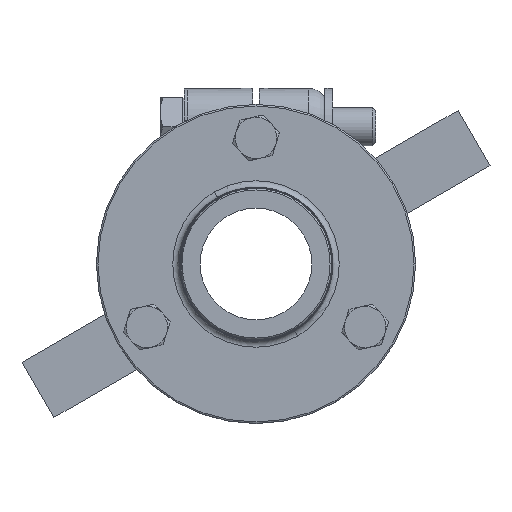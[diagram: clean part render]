
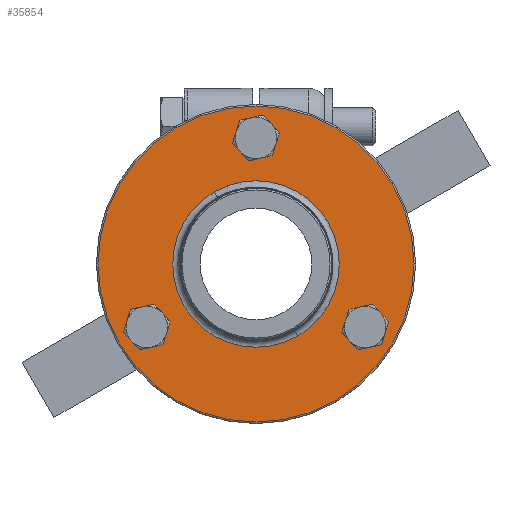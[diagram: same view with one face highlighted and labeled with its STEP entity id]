
A CAD part, front view. The second image highlights one B-rep face of the part: STEP entity #35854.
In plain terms, the highlighted planar face has unit normal (0, -1, 0).
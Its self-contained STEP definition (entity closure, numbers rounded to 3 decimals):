
#741 = EDGE_LOOP ( 'NONE', ( #27718, #27720 ) ) ;
#742 = EDGE_LOOP ( 'NONE', ( #27726, #27728 ) ) ;
#744 = EDGE_LOOP ( 'NONE', ( #27714, #27716 ) ) ;
#745 = EDGE_LOOP ( 'NONE', ( #27722, #27724 ) ) ;
#746 = EDGE_LOOP ( 'NONE', ( #27730, #27732 ) ) ;
#3844 = EDGE_CURVE ( 'NONE', #28435, #28436, #7084, .T. ) ;
#3848 = EDGE_CURVE ( 'NONE', #28439, #28440, #7090, .T. ) ;
#3852 = EDGE_CURVE ( 'NONE', #28443, #28444, #7096, .T. ) ;
#3854 = EDGE_CURVE ( 'NONE', #28441, #28442, #7097, .T. ) ;
#3953 = EDGE_CURVE ( 'NONE', #28514, #28512, #7177, .T. ) ;
#6642 = AXIS2_PLACEMENT_3D ( 'NONE', #11888, #11889, #11890 ) ;
#6644 = AXIS2_PLACEMENT_3D ( 'NONE', #11898, #11899, #11900 ) ;
#6646 = AXIS2_PLACEMENT_3D ( 'NONE', #11908, #11909, #11910 ) ;
#6647 = AXIS2_PLACEMENT_3D ( 'NONE', #11912, #11913, #11914 ) ;
#6663 = AXIS2_PLACEMENT_3D ( 'NONE', #8579, #8580, #8581 ) ;
#7084 = CIRCLE ( 'NONE', #6642, 5.25 ) ;
#7090 = CIRCLE ( 'NONE', #6644, 5.25 ) ;
#7096 = CIRCLE ( 'NONE', #6646, 5.25 ) ;
#7097 = CIRCLE ( 'NONE', #6647, 49.5 ) ;
#7177 = CIRCLE ( 'NONE', #6663, 26.074 ) ;
#8579 = CARTESIAN_POINT ( 'NONE',  ( 0., 9., 0. ) ) ;
#8580 = DIRECTION ( 'NONE',  ( 0., 1., 0. ) ) ;
#8581 = DIRECTION ( 'NONE',  ( 0.5, 0., -0.866 ) ) ;
#9077 = AXIS2_PLACEMENT_3D ( 'NONE', #30120, #30121, #30122 ) ;
#9086 = AXIS2_PLACEMENT_3D ( 'NONE', #30191, #30192, #30193 ) ;
#9087 = AXIS2_PLACEMENT_3D ( 'NONE', #30194, #30195, #30196 ) ;
#9088 = AXIS2_PLACEMENT_3D ( 'NONE', #30197, #30198, #30199 ) ;
#9089 = AXIS2_PLACEMENT_3D ( 'NONE', #30202, #30203, #30204 ) ;
#10191 = CIRCLE ( 'NONE', #9077, 26.074 ) ;
#10200 = CIRCLE ( 'NONE', #9086, 49.5 ) ;
#10201 = CIRCLE ( 'NONE', #9087, 5.25 ) ;
#10202 = CIRCLE ( 'NONE', #9088, 5.25 ) ;
#10203 = CIRCLE ( 'NONE', #9089, 5.25 ) ;
#11888 = CARTESIAN_POINT ( 'NONE',  ( 0., 9., 39.5 ) ) ;
#11889 = DIRECTION ( 'NONE',  ( 0., -1., 0. ) ) ;
#11890 = DIRECTION ( 'NONE',  ( 1., 0., 0. ) ) ;
#11898 = CARTESIAN_POINT ( 'NONE',  ( 34.208, 9., -19.75 ) ) ;
#11899 = DIRECTION ( 'NONE',  ( 0., -1., 0. ) ) ;
#11900 = DIRECTION ( 'NONE',  ( -0.5, 0., -0.866 ) ) ;
#11908 = CARTESIAN_POINT ( 'NONE',  ( -34.208, 9., -19.75 ) ) ;
#11909 = DIRECTION ( 'NONE',  ( 0., -1., 0. ) ) ;
#11910 = DIRECTION ( 'NONE',  ( -0.5, 0., 0.866 ) ) ;
#11912 = CARTESIAN_POINT ( 'NONE',  ( 0., 9., 0. ) ) ;
#11913 = DIRECTION ( 'NONE',  ( 0., 1., 0. ) ) ;
#11914 = DIRECTION ( 'NONE',  ( 0.5, 0., -0.866 ) ) ;
#15982 = CARTESIAN_POINT ( 'NONE',  ( 2.625, 9., 34.953 ) ) ;
#15983 = CARTESIAN_POINT ( 'NONE',  ( -2.625, 9., 44.047 ) ) ;
#15986 = CARTESIAN_POINT ( 'NONE',  ( 36.833, 9., -24.297 ) ) ;
#15987 = CARTESIAN_POINT ( 'NONE',  ( 31.583, 9., -15.203 ) ) ;
#15988 = CARTESIAN_POINT ( 'NONE',  ( 24.75, 9., -42.868 ) ) ;
#15989 = CARTESIAN_POINT ( 'NONE',  ( -24.75, 9., 42.868 ) ) ;
#15990 = CARTESIAN_POINT ( 'NONE',  ( -31.583, 9., -24.297 ) ) ;
#15991 = CARTESIAN_POINT ( 'NONE',  ( -36.833, 9., -15.203 ) ) ;
#16059 = CARTESIAN_POINT ( 'NONE',  ( 13.037, 9., -22.58 ) ) ;
#16061 = CARTESIAN_POINT ( 'NONE',  ( -13.037, 9., 22.58 ) ) ;
#19712 = PLANE ( 'NONE',  #21147 ) ;
#19730 = CARTESIAN_POINT ( 'NONE',  ( -42.868, 9., -24.75 ) ) ;
#19731 = DIRECTION ( 'NONE',  ( 0., -1., 0. ) ) ;
#19732 = DIRECTION ( 'NONE',  ( -0.5, 0., 0.866 ) ) ;
#20749 = FACE_BOUND ( 'NONE', #741, .T. ) ;
#20750 = FACE_OUTER_BOUND ( 'NONE', #746, .T. ) ;
#20751 = FACE_BOUND ( 'NONE', #742, .T. ) ;
#20752 = FACE_BOUND ( 'NONE', #744, .T. ) ;
#20753 = FACE_BOUND ( 'NONE', #745, .T. ) ;
#21147 = AXIS2_PLACEMENT_3D ( 'NONE', #19730, #19731, #19732 ) ;
#25894 = EDGE_CURVE ( 'NONE', #28512, #28514, #10191, .T. ) ;
#25906 = EDGE_CURVE ( 'NONE', #28442, #28441, #10200, .T. ) ;
#25907 = EDGE_CURVE ( 'NONE', #28436, #28435, #10201, .T. ) ;
#25908 = EDGE_CURVE ( 'NONE', #28440, #28439, #10202, .T. ) ;
#25909 = EDGE_CURVE ( 'NONE', #28444, #28443, #10203, .T. ) ;
#27714 = ORIENTED_EDGE ( 'NONE', *, *, #25907, .F. ) ;
#27716 = ORIENTED_EDGE ( 'NONE', *, *, #3844, .F. ) ;
#27718 = ORIENTED_EDGE ( 'NONE', *, *, #25908, .F. ) ;
#27720 = ORIENTED_EDGE ( 'NONE', *, *, #3848, .F. ) ;
#27722 = ORIENTED_EDGE ( 'NONE', *, *, #25909, .F. ) ;
#27724 = ORIENTED_EDGE ( 'NONE', *, *, #3852, .F. ) ;
#27726 = ORIENTED_EDGE ( 'NONE', *, *, #25894, .T. ) ;
#27728 = ORIENTED_EDGE ( 'NONE', *, *, #3953, .T. ) ;
#27730 = ORIENTED_EDGE ( 'NONE', *, *, #3854, .F. ) ;
#27732 = ORIENTED_EDGE ( 'NONE', *, *, #25906, .F. ) ;
#28435 = VERTEX_POINT ( 'NONE', #15982 ) ;
#28436 = VERTEX_POINT ( 'NONE', #15983 ) ;
#28439 = VERTEX_POINT ( 'NONE', #15986 ) ;
#28440 = VERTEX_POINT ( 'NONE', #15987 ) ;
#28441 = VERTEX_POINT ( 'NONE', #15988 ) ;
#28442 = VERTEX_POINT ( 'NONE', #15989 ) ;
#28443 = VERTEX_POINT ( 'NONE', #15990 ) ;
#28444 = VERTEX_POINT ( 'NONE', #15991 ) ;
#28512 = VERTEX_POINT ( 'NONE', #16059 ) ;
#28514 = VERTEX_POINT ( 'NONE', #16061 ) ;
#30120 = CARTESIAN_POINT ( 'NONE',  ( 0., 9., 0. ) ) ;
#30121 = DIRECTION ( 'NONE',  ( 0., 1., 0. ) ) ;
#30122 = DIRECTION ( 'NONE',  ( 0.5, 0., -0.866 ) ) ;
#30191 = CARTESIAN_POINT ( 'NONE',  ( 0., 9., 0. ) ) ;
#30192 = DIRECTION ( 'NONE',  ( 0., 1., 0. ) ) ;
#30193 = DIRECTION ( 'NONE',  ( 0.5, 0., -0.866 ) ) ;
#30194 = CARTESIAN_POINT ( 'NONE',  ( 0., 9., 39.5 ) ) ;
#30195 = DIRECTION ( 'NONE',  ( 0., -1., 0. ) ) ;
#30196 = DIRECTION ( 'NONE',  ( 1., 0., 0. ) ) ;
#30197 = CARTESIAN_POINT ( 'NONE',  ( 34.208, 9., -19.75 ) ) ;
#30198 = DIRECTION ( 'NONE',  ( 0., -1., 0. ) ) ;
#30199 = DIRECTION ( 'NONE',  ( -0.5, 0., -0.866 ) ) ;
#30202 = CARTESIAN_POINT ( 'NONE',  ( -34.208, 9., -19.75 ) ) ;
#30203 = DIRECTION ( 'NONE',  ( 0., -1., 0. ) ) ;
#30204 = DIRECTION ( 'NONE',  ( -0.5, 0., 0.866 ) ) ;
#35854 = ADVANCED_FACE ( 'NONE', ( #20752, #20749, #20753, #20751, #20750 ), #19712, .T. ) ;
